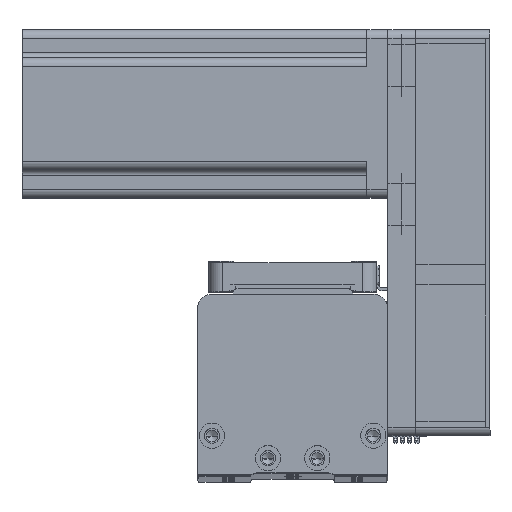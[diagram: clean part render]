
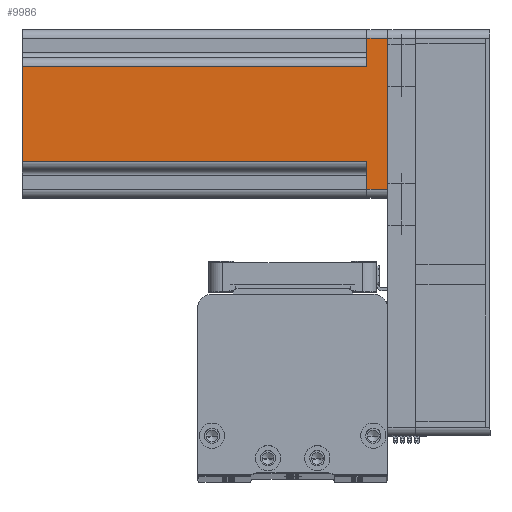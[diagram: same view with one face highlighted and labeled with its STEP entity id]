
A CAD part, top view. The second image highlights one B-rep face of the part: STEP entity #9986.
In plain terms, the highlighted planar face has unit normal (0, 0, 1) as drawn and (0, -1, 0) by its records, which use the part's own axes.
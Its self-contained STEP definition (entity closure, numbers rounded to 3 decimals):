
#145 = CARTESIAN_POINT ( 'NONE',  ( 17., -30., 130.7 ) ) ;
#341 = DIRECTION ( 'NONE',  ( 1., 0., 0. ) ) ;
#414 = VERTEX_POINT ( 'NONE', #145 ) ;
#1425 = CARTESIAN_POINT ( 'NONE',  ( 17., -30., 130.7 ) ) ;
#1944 = VECTOR ( 'NONE', #341, 1000. ) ;
#1999 = EDGE_CURVE ( 'NONE', #36787, #31715, #33096, .T. ) ;
#2603 = PLANE ( 'NONE',  #19677 ) ;
#2962 = DIRECTION ( 'NONE',  ( -1., 0., 0. ) ) ;
#4568 = VERTEX_POINT ( 'NONE', #35763 ) ;
#5416 = VECTOR ( 'NONE', #31794, 1000. ) ;
#5822 = EDGE_CURVE ( 'NONE', #9503, #29081, #45676, .T. ) ;
#6130 = LINE ( 'NONE', #49975, #25708 ) ;
#6935 = ORIENTED_EDGE ( 'NONE', *, *, #43116, .T. ) ;
#9162 = VECTOR ( 'NONE', #44614, 1000. ) ;
#9503 = VERTEX_POINT ( 'NONE', #27087 ) ;
#9986 = ADVANCED_FACE ( 'NONE', ( #12608 ), #2603, .F. ) ;
#10706 = CARTESIAN_POINT ( 'NONE',  ( -17., -30., 130.7 ) ) ;
#12608 = FACE_OUTER_BOUND ( 'NONE', #46987, .T. ) ;
#16098 = EDGE_CURVE ( 'NONE', #29081, #18985, #6130, .T. ) ;
#17397 = CARTESIAN_POINT ( 'NONE',  ( -27., -30., 130.7 ) ) ;
#18876 = VECTOR ( 'NONE', #27192, 1000. ) ;
#18985 = VERTEX_POINT ( 'NONE', #32118 ) ;
#19677 = AXIS2_PLACEMENT_3D ( 'NONE', #49695, #26380, #2962 ) ;
#20254 = CARTESIAN_POINT ( 'NONE',  ( 27., -30., 130.7 ) ) ;
#23206 = VECTOR ( 'NONE', #45863, 1000. ) ;
#24135 = VECTOR ( 'NONE', #49185, 1000. ) ;
#25668 = EDGE_CURVE ( 'NONE', #18985, #414, #40326, .T. ) ;
#25708 = VECTOR ( 'NONE', #38372, 1000. ) ;
#25865 = CARTESIAN_POINT ( 'NONE',  ( 30., -30., 130.7 ) ) ;
#26380 = DIRECTION ( 'NONE',  ( 0., 1., 0. ) ) ;
#27087 = CARTESIAN_POINT ( 'NONE',  ( 27., -30., 0. ) ) ;
#27192 = DIRECTION ( 'NONE',  ( 1., 0., 0. ) ) ;
#28044 = LINE ( 'NONE', #46616, #18876 ) ;
#28800 = EDGE_CURVE ( 'NONE', #36787, #4568, #42044, .T. ) ;
#28922 = ORIENTED_EDGE ( 'NONE', *, *, #25668, .T. ) ;
#29081 = VERTEX_POINT ( 'NONE', #39009 ) ;
#31569 = CARTESIAN_POINT ( 'NONE',  ( -20., -30., 7.5 ) ) ;
#31715 = VERTEX_POINT ( 'NONE', #46292 ) ;
#31794 = DIRECTION ( 'NONE',  ( 0., 0., 1. ) ) ;
#32118 = CARTESIAN_POINT ( 'NONE',  ( 17., -30., 7.5 ) ) ;
#32883 = DIRECTION ( 'NONE',  ( 0., 0., -1. ) ) ;
#33096 = LINE ( 'NONE', #31569, #1944 ) ;
#33363 = VERTEX_POINT ( 'NONE', #40415 ) ;
#33527 = LINE ( 'NONE', #10706, #23206 ) ;
#35763 = CARTESIAN_POINT ( 'NONE',  ( -27., -30., 0. ) ) ;
#36787 = VERTEX_POINT ( 'NONE', #42989 ) ;
#38372 = DIRECTION ( 'NONE',  ( -1., 0., 0. ) ) ;
#39009 = CARTESIAN_POINT ( 'NONE',  ( 27., -30., 7.5 ) ) ;
#40012 = ORIENTED_EDGE ( 'NONE', *, *, #41443, .T. ) ;
#40326 = LINE ( 'NONE', #1425, #9162 ) ;
#40415 = CARTESIAN_POINT ( 'NONE',  ( -17., -30., 130.7 ) ) ;
#40716 = ORIENTED_EDGE ( 'NONE', *, *, #28800, .T. ) ;
#40836 = VECTOR ( 'NONE', #32883, 1000. ) ;
#41443 = EDGE_CURVE ( 'NONE', #4568, #9503, #28044, .T. ) ;
#41720 = ORIENTED_EDGE ( 'NONE', *, *, #5822, .T. ) ;
#42044 = LINE ( 'NONE', #17397, #40836 ) ;
#42989 = CARTESIAN_POINT ( 'NONE',  ( -27., -30., 7.5 ) ) ;
#43116 = EDGE_CURVE ( 'NONE', #33363, #31715, #33527, .T. ) ;
#44614 = DIRECTION ( 'NONE',  ( 0., 0., 1. ) ) ;
#44853 = LINE ( 'NONE', #25865, #24135 ) ;
#45616 = ORIENTED_EDGE ( 'NONE', *, *, #1999, .F. ) ;
#45676 = LINE ( 'NONE', #20254, #5416 ) ;
#45863 = DIRECTION ( 'NONE',  ( 0., 0., -1. ) ) ;
#46292 = CARTESIAN_POINT ( 'NONE',  ( -17., -30., 7.5 ) ) ;
#46463 = ORIENTED_EDGE ( 'NONE', *, *, #16098, .T. ) ;
#46616 = CARTESIAN_POINT ( 'NONE',  ( 30., -30., 0. ) ) ;
#46987 = EDGE_LOOP ( 'NONE', ( #50561, #6935, #45616, #40716, #40012, #41720, #46463, #28922 ) ) ;
#49185 = DIRECTION ( 'NONE',  ( 1., 0., 0. ) ) ;
#49403 = EDGE_CURVE ( 'NONE', #33363, #414, #44853, .T. ) ;
#49695 = CARTESIAN_POINT ( 'NONE',  ( 30., -30., 130.7 ) ) ;
#49975 = CARTESIAN_POINT ( 'NONE',  ( 20., -30., 7.5 ) ) ;
#50561 = ORIENTED_EDGE ( 'NONE', *, *, #49403, .F. ) ;
